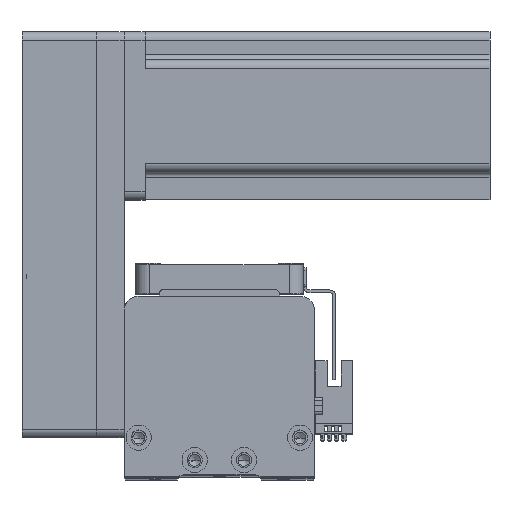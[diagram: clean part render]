
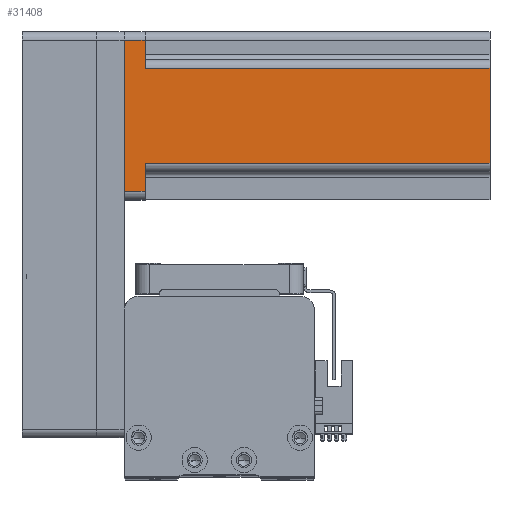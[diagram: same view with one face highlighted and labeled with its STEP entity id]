
A CAD part, top view. The second image highlights one B-rep face of the part: STEP entity #31408.
In plain terms, the highlighted planar face has unit normal (0, 0, 1) as drawn and (0, 1, 0) by its records, which use the part's own axes.
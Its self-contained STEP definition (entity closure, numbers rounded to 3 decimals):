
#440 = CARTESIAN_POINT ( 'NONE',  ( -27., 30., 7.5 ) ) ;
#525 = LINE ( 'NONE', #21334, #43733 ) ;
#625 = CARTESIAN_POINT ( 'NONE',  ( -17., 30., 130.7 ) ) ;
#1500 = VECTOR ( 'NONE', #34853, 1000. ) ;
#1967 = ORIENTED_EDGE ( 'NONE', *, *, #24569, .F. ) ;
#2922 = CARTESIAN_POINT ( 'NONE',  ( 30., 30., 130.7 ) ) ;
#3205 = LINE ( 'NONE', #22055, #37348 ) ;
#3449 = DIRECTION ( 'NONE',  ( -1., 0., 0. ) ) ;
#6348 = ORIENTED_EDGE ( 'NONE', *, *, #15132, .T. ) ;
#6351 = DIRECTION ( 'NONE',  ( 1., 0., 0. ) ) ;
#7395 = CARTESIAN_POINT ( 'NONE',  ( 17., 30., 7.5 ) ) ;
#7537 = CARTESIAN_POINT ( 'NONE',  ( 30., 30., 0. ) ) ;
#8623 = ORIENTED_EDGE ( 'NONE', *, *, #34412, .T. ) ;
#9040 = LINE ( 'NONE', #625, #18093 ) ;
#9170 = CARTESIAN_POINT ( 'NONE',  ( 27., 30., 0. ) ) ;
#9680 = PLANE ( 'NONE',  #12415 ) ;
#9899 = VERTEX_POINT ( 'NONE', #43003 ) ;
#10198 = CARTESIAN_POINT ( 'NONE',  ( 20., 30., 7.5 ) ) ;
#10348 = VECTOR ( 'NONE', #28824, 1000. ) ;
#11137 = DIRECTION ( 'NONE',  ( -1., 0., 0. ) ) ;
#11245 = DIRECTION ( 'NONE',  ( 0., 0., -1. ) ) ;
#11421 = LINE ( 'NONE', #38945, #10348 ) ;
#12415 = AXIS2_PLACEMENT_3D ( 'NONE', #2922, #26776, #6351 ) ;
#12732 = LINE ( 'NONE', #7537, #21776 ) ;
#13579 = VECTOR ( 'NONE', #3449, 1000. ) ;
#14029 = VERTEX_POINT ( 'NONE', #9170 ) ;
#15132 = EDGE_CURVE ( 'NONE', #16919, #9899, #3205, .T. ) ;
#16919 = VERTEX_POINT ( 'NONE', #440 ) ;
#16978 = CARTESIAN_POINT ( 'NONE',  ( 30., 30., 130.7 ) ) ;
#17116 = DIRECTION ( 'NONE',  ( -1., 0., 0. ) ) ;
#17631 = DIRECTION ( 'NONE',  ( 0., 0., 1. ) ) ;
#18093 = VECTOR ( 'NONE', #17631, 1000. ) ;
#19066 = VECTOR ( 'NONE', #17116, 1000. ) ;
#19638 = LINE ( 'NONE', #21130, #1500 ) ;
#19719 = EDGE_CURVE ( 'NONE', #34340, #41427, #28140, .T. ) ;
#21130 = CARTESIAN_POINT ( 'NONE',  ( 27., 30., 130.7 ) ) ;
#21314 = CARTESIAN_POINT ( 'NONE',  ( 27., 30., 7.5 ) ) ;
#21334 = CARTESIAN_POINT ( 'NONE',  ( 17., 30., 130.7 ) ) ;
#21776 = VECTOR ( 'NONE', #11137, 1000. ) ;
#22055 = CARTESIAN_POINT ( 'NONE',  ( -20., 30., 7.5 ) ) ;
#22635 = LINE ( 'NONE', #10198, #13579 ) ;
#23363 = EDGE_LOOP ( 'NONE', ( #6348, #25783, #40497, #29547, #1967, #8623, #28071, #34900 ) ) ;
#24569 = EDGE_CURVE ( 'NONE', #38596, #39587, #22635, .T. ) ;
#25783 = ORIENTED_EDGE ( 'NONE', *, *, #28922, .T. ) ;
#26776 = DIRECTION ( 'NONE',  ( 0., -1., 0. ) ) ;
#26806 = EDGE_CURVE ( 'NONE', #34340, #39587, #525, .T. ) ;
#28071 = ORIENTED_EDGE ( 'NONE', *, *, #39638, .T. ) ;
#28140 = LINE ( 'NONE', #16978, #19066 ) ;
#28824 = DIRECTION ( 'NONE',  ( 0., 0., 1. ) ) ;
#28922 = EDGE_CURVE ( 'NONE', #9899, #41427, #9040, .T. ) ;
#28949 = DIRECTION ( 'NONE',  ( 1., 0., 0. ) ) ;
#28990 = CARTESIAN_POINT ( 'NONE',  ( -27., 30., 0. ) ) ;
#29187 = CARTESIAN_POINT ( 'NONE',  ( -17., 30., 130.7 ) ) ;
#29547 = ORIENTED_EDGE ( 'NONE', *, *, #26806, .T. ) ;
#31408 = ADVANCED_FACE ( 'NONE', ( #37008 ), #9680, .F. ) ;
#32224 = EDGE_CURVE ( 'NONE', #33549, #16919, #11421, .T. ) ;
#33549 = VERTEX_POINT ( 'NONE', #28990 ) ;
#34340 = VERTEX_POINT ( 'NONE', #41106 ) ;
#34412 = EDGE_CURVE ( 'NONE', #38596, #14029, #19638, .T. ) ;
#34853 = DIRECTION ( 'NONE',  ( 0., 0., -1. ) ) ;
#34900 = ORIENTED_EDGE ( 'NONE', *, *, #32224, .T. ) ;
#37008 = FACE_OUTER_BOUND ( 'NONE', #23363, .T. ) ;
#37348 = VECTOR ( 'NONE', #28949, 1000. ) ;
#38596 = VERTEX_POINT ( 'NONE', #21314 ) ;
#38945 = CARTESIAN_POINT ( 'NONE',  ( -27., 30., 130.7 ) ) ;
#39587 = VERTEX_POINT ( 'NONE', #7395 ) ;
#39638 = EDGE_CURVE ( 'NONE', #14029, #33549, #12732, .T. ) ;
#40497 = ORIENTED_EDGE ( 'NONE', *, *, #19719, .F. ) ;
#41106 = CARTESIAN_POINT ( 'NONE',  ( 17., 30., 130.7 ) ) ;
#41427 = VERTEX_POINT ( 'NONE', #29187 ) ;
#43003 = CARTESIAN_POINT ( 'NONE',  ( -17., 30., 7.5 ) ) ;
#43733 = VECTOR ( 'NONE', #11245, 1000. ) ;
